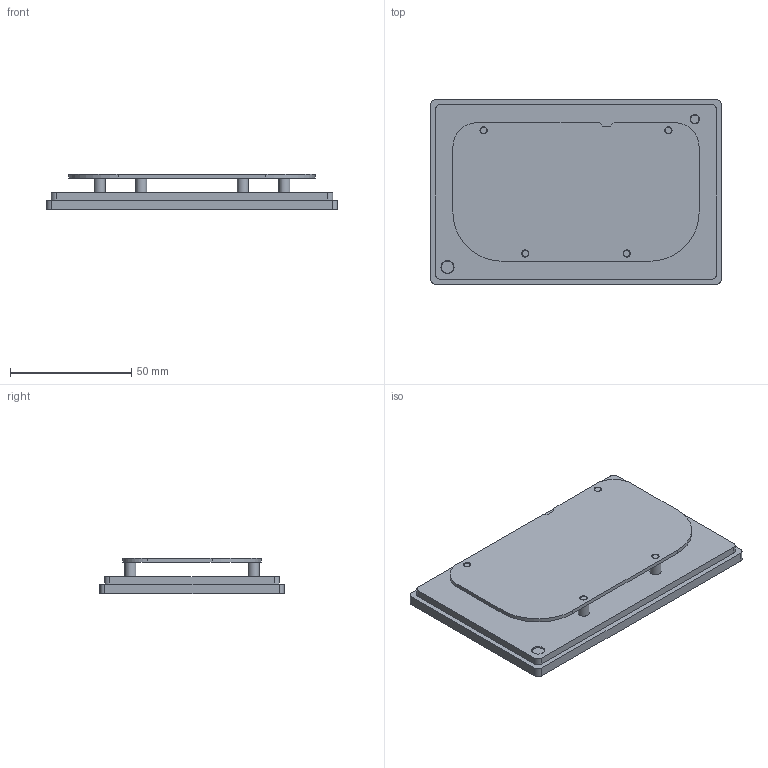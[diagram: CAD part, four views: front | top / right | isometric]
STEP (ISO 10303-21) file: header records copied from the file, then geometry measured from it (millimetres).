
FILE_DESCRIPTION(('Open CASCADE Model'),'2;1');
FILE_NAME('Open CASCADE Shape Model','2026-11-18T17:24:20',('Author'),( 'Open CASCADE'),'Open CASCADE STEP processor 7.8','Open CASCADE 7.8' ,'Unknown');
FILE_SCHEMA(('AUTOMOTIVE_DESIGN { 1 0 10303 214 1 1 1 1 }'));
Length unit declared in the file: millimetre
Products named in the file (4): d5d3dff0-e331-11f1-a76a-e454e8535259; dock; carrier; bare_board_reference
Assembly tree (3 placements, depth 2):
  d5d3dff0-e331-11f1-a76a-e454e8535259
    dock
    carrier
    bare_board_reference
Bounding box: 120 x 76 x 14.6 mm (x, y, z)
Volume: 70791.4 mm3; surface area: 49711.2 mm2
Topology: 3 solids, 3 shells, 60 faces, 132 edges, 88 vertices
Faces by surface type: plane 32, cylinder 28
Full cylindrical faces by diameter (mm): 2.6 x4, 3 x4, 3.5 x1, 3.9 x1, 4.6 x4, 5 x1, 5.4 x1
Entity records: 3541 total; most frequent: CARTESIAN_POINT 632, DIRECTION 566, LINE 284, VECTOR 284, ORIENTED_EDGE 264, PCURVE 264, DEFINITIONAL_REPRESENTATION 264, EDGE_CURVE 132
